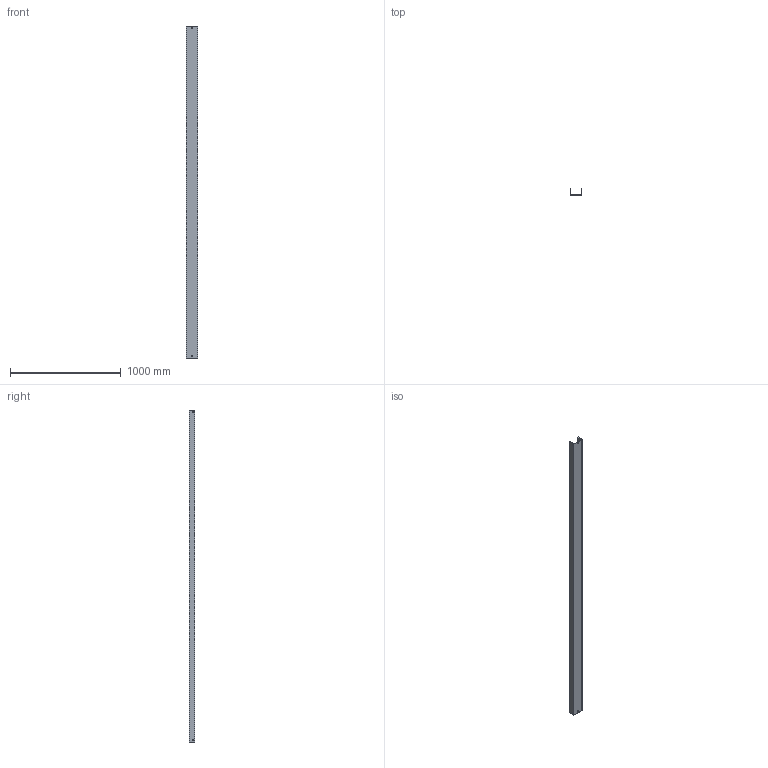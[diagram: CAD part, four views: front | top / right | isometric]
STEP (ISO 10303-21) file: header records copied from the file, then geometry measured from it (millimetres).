
FILE_DESCRIPTION (( 'STEP AP214' ), '1' );
FILE_NAME ('03F3B100.step', '2025-02-21T13:24:04', ( '' ), ( '' ), 'SwSTEP 2.0', 'SolidWorks 2023', '' );
FILE_SCHEMA (( 'AUTOMOTIVE_DESIGN' ));
Length unit declared in the file: millimetre
Products named in the file (1): 03F3B100
Bounding box: 104 x 52 x 3000 mm (x, y, z)
Volume: 2109110.5 mm3; surface area: 1228306 mm2
Topology: 1 solids, 1 shells, 34 faces, 96 edges, 64 vertices
Faces by surface type: plane 34
Entity records: 1127 total; most frequent: CARTESIAN_POINT 195, ORIENTED_EDGE 192, DIRECTION 166, LINE 96, EDGE_CURVE 96, VECTOR 96, VERTEX_POINT 64, EDGE_LOOP 46
